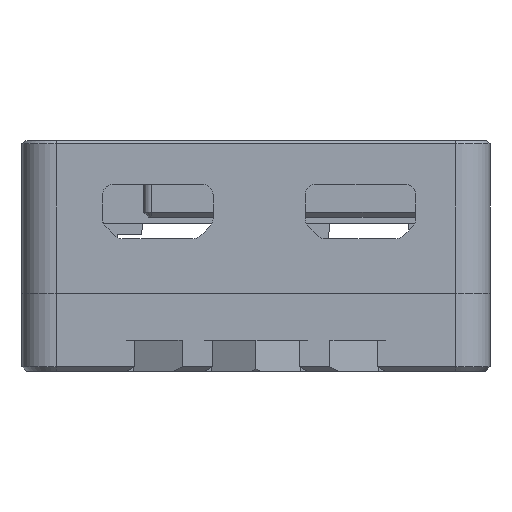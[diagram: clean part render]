
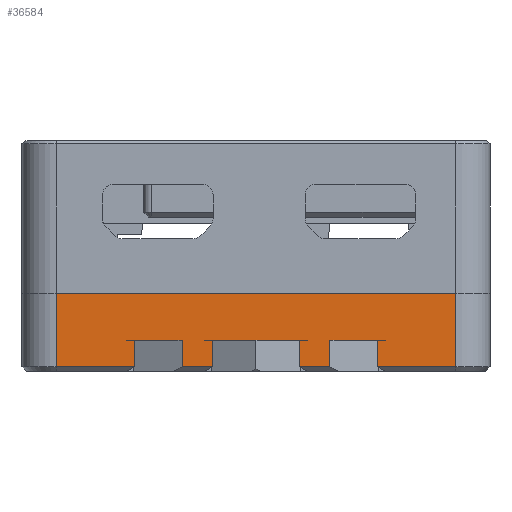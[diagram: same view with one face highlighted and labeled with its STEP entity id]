
A CAD part, left-side view. The second image highlights one B-rep face of the part: STEP entity #36584.
In plain terms, the highlighted planar face has unit normal (-1, 0, 0).
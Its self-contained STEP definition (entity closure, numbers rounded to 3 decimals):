
#761 = ORIENTED_EDGE ( 'NONE', *, *, #17235, .F. ) ;
#1042 = ORIENTED_EDGE ( 'NONE', *, *, #25775, .F. ) ;
#1601 = CARTESIAN_POINT ( 'NONE',  ( -39.25, -12.8, -1.3 ) ) ;
#2102 = VERTEX_POINT ( 'NONE', #20802 ) ;
#2286 = LINE ( 'NONE', #22566, #44031 ) ;
#2346 = CARTESIAN_POINT ( 'NONE',  ( -39.25, 7.79, -4.3 ) ) ;
#2533 = EDGE_CURVE ( 'NONE', #50978, #35514, #48154, .T. ) ;
#2747 = CARTESIAN_POINT ( 'NONE',  ( -39.25, 2.766, -6. ) ) ;
#2926 = CARTESIAN_POINT ( 'NONE',  ( -39.25, 2.766, -6. ) ) ;
#3187 = EDGE_CURVE ( 'NONE', #35514, #11585, #39814, .T. ) ;
#4060 = VECTOR ( 'NONE', #16107, 1000. ) ;
#4986 = CARTESIAN_POINT ( 'NONE',  ( -39.25, 2.766, -6. ) ) ;
#5026 = VECTOR ( 'NONE', #22011, 1000. ) ;
#5602 = LINE ( 'NONE', #51870, #46638 ) ;
#6171 = VECTOR ( 'NONE', #47871, 1000. ) ;
#6237 = ORIENTED_EDGE ( 'NONE', *, *, #12542, .T. ) ;
#6689 = ORIENTED_EDGE ( 'NONE', *, *, #41767, .T. ) ;
#7201 = ORIENTED_EDGE ( 'NONE', *, *, #2533, .F. ) ;
#7357 = DIRECTION ( 'NONE',  ( 0., 1., 0. ) ) ;
#7491 = EDGE_CURVE ( 'NONE', #42672, #33001, #27049, .T. ) ;
#9226 = EDGE_CURVE ( 'NONE', #14707, #28990, #42329, .T. ) ;
#9569 = CARTESIAN_POINT ( 'NONE',  ( -39.25, 7.79, -6. ) ) ;
#11585 = VERTEX_POINT ( 'NONE', #1601 ) ;
#12542 = EDGE_CURVE ( 'NONE', #50807, #47446, #2286, .T. ) ;
#12940 = VECTOR ( 'NONE', #30386, 1000. ) ;
#13398 = ORIENTED_EDGE ( 'NONE', *, *, #9226, .T. ) ;
#14489 = CARTESIAN_POINT ( 'NONE',  ( -39.25, 12.8, -6.3 ) ) ;
#14707 = VERTEX_POINT ( 'NONE', #22684 ) ;
#14728 = CARTESIAN_POINT ( 'NONE',  ( -39.25, -4.741, -6. ) ) ;
#15275 = CARTESIAN_POINT ( 'NONE',  ( -39.25, 4.741, -4.3 ) ) ;
#16107 = DIRECTION ( 'NONE',  ( 0., 1., 0. ) ) ;
#16181 = LINE ( 'NONE', #19018, #21226 ) ;
#16388 = VECTOR ( 'NONE', #38946, 1000. ) ;
#17235 = EDGE_CURVE ( 'NONE', #30666, #35025, #5602, .T. ) ;
#17958 = LINE ( 'NONE', #2926, #19842 ) ;
#18732 = CARTESIAN_POINT ( 'NONE',  ( -39.25, -7.79, -4.3 ) ) ;
#19018 = CARTESIAN_POINT ( 'NONE',  ( -39.25, -4.741, -6. ) ) ;
#19051 = PLANE ( 'NONE',  #45058 ) ;
#19260 = DIRECTION ( 'NONE',  ( 0., -1., 0. ) ) ;
#19825 = CARTESIAN_POINT ( 'NONE',  ( -39.25, -12.8, -6. ) ) ;
#19842 = VECTOR ( 'NONE', #7357, 1000. ) ;
#19863 = ORIENTED_EDGE ( 'NONE', *, *, #35476, .F. ) ;
#20103 = DIRECTION ( 'NONE',  ( 0., 0., 1. ) ) ;
#20678 = DIRECTION ( 'NONE',  ( 0., -1., 0. ) ) ;
#20802 = CARTESIAN_POINT ( 'NONE',  ( -39.25, -12.8, -6. ) ) ;
#21226 = VECTOR ( 'NONE', #47628, 1000. ) ;
#21402 = EDGE_LOOP ( 'NONE', ( #49522, #6689, #6237, #1042, #48923, #38487, #44957, #38903, #19863, #31386, #25245, #7201, #48490, #13398, #26522, #761 ) ) ;
#22011 = DIRECTION ( 'NONE',  ( 0., -1., 0. ) ) ;
#22100 = EDGE_CURVE ( 'NONE', #23514, #30666, #17958, .T. ) ;
#22363 = DIRECTION ( 'NONE',  ( -1., 0., 0. ) ) ;
#22537 = CARTESIAN_POINT ( 'NONE',  ( -39.25, -4.741, -6. ) ) ;
#22566 = CARTESIAN_POINT ( 'NONE',  ( -39.25, 2.766, -4.3 ) ) ;
#22684 = CARTESIAN_POINT ( 'NONE',  ( -39.25, 7.79, -6. ) ) ;
#23498 = CARTESIAN_POINT ( 'NONE',  ( -39.25, 7.79, -6. ) ) ;
#23514 = VERTEX_POINT ( 'NONE', #4986 ) ;
#23542 = CARTESIAN_POINT ( 'NONE',  ( -39.25, 2.766, -4.3 ) ) ;
#24512 = CARTESIAN_POINT ( 'NONE',  ( -39.25, 7.79, -4.3 ) ) ;
#24749 = CARTESIAN_POINT ( 'NONE',  ( -39.25, 12.8, -6. ) ) ;
#24865 = DIRECTION ( 'NONE',  ( 0., 1., 0. ) ) ;
#25129 = CARTESIAN_POINT ( 'NONE',  ( -39.25, 4.741, -6. ) ) ;
#25245 = ORIENTED_EDGE ( 'NONE', *, *, #3187, .F. ) ;
#25451 = VECTOR ( 'NONE', #24865, 1000. ) ;
#25507 = LINE ( 'NONE', #19825, #4060 ) ;
#25775 = EDGE_CURVE ( 'NONE', #47395, #47446, #42801, .T. ) ;
#26522 = ORIENTED_EDGE ( 'NONE', *, *, #39624, .T. ) ;
#26572 = LINE ( 'NONE', #2747, #39367 ) ;
#27049 = LINE ( 'NONE', #38435, #16388 ) ;
#27683 = EDGE_CURVE ( 'NONE', #14707, #50978, #46364, .T. ) ;
#28990 = VERTEX_POINT ( 'NONE', #2346 ) ;
#29132 = CARTESIAN_POINT ( 'NONE',  ( -39.25, -12.8, -6. ) ) ;
#29521 = VERTEX_POINT ( 'NONE', #34456 ) ;
#30278 = DIRECTION ( 'NONE',  ( 0., 0., 1. ) ) ;
#30386 = DIRECTION ( 'NONE',  ( 0., 1., 0. ) ) ;
#30666 = VERTEX_POINT ( 'NONE', #25129 ) ;
#31386 = ORIENTED_EDGE ( 'NONE', *, *, #33100, .T. ) ;
#31525 = DIRECTION ( 'NONE',  ( 0., 0., 1. ) ) ;
#31556 = VECTOR ( 'NONE', #43684, 1000. ) ;
#33001 = VERTEX_POINT ( 'NONE', #49472 ) ;
#33100 = EDGE_CURVE ( 'NONE', #2102, #11585, #50046, .T. ) ;
#34247 = VECTOR ( 'NONE', #37351, 1000. ) ;
#34394 = LINE ( 'NONE', #18732, #12940 ) ;
#34456 = CARTESIAN_POINT ( 'NONE',  ( -39.25, -4.741, -4.3 ) ) ;
#34962 = DIRECTION ( 'NONE',  ( 0., 0., 1. ) ) ;
#35025 = VERTEX_POINT ( 'NONE', #15275 ) ;
#35061 = CARTESIAN_POINT ( 'NONE',  ( -39.25, 12.8, -6. ) ) ;
#35324 = EDGE_CURVE ( 'NONE', #47345, #29521, #47063, .T. ) ;
#35476 = EDGE_CURVE ( 'NONE', #2102, #42672, #25507, .T. ) ;
#35514 = VERTEX_POINT ( 'NONE', #44375 ) ;
#36584 = ADVANCED_FACE ( 'NONE', ( #49378 ), #19051, .T. ) ;
#37148 = VECTOR ( 'NONE', #20678, 1000. ) ;
#37351 = DIRECTION ( 'NONE',  ( 0., 0., 1. ) ) ;
#38276 = VECTOR ( 'NONE', #42806, 1000. ) ;
#38435 = CARTESIAN_POINT ( 'NONE',  ( -39.25, -7.79, -6. ) ) ;
#38487 = ORIENTED_EDGE ( 'NONE', *, *, #35324, .T. ) ;
#38903 = ORIENTED_EDGE ( 'NONE', *, *, #7491, .F. ) ;
#38946 = DIRECTION ( 'NONE',  ( 0., 0., 1. ) ) ;
#39367 = VECTOR ( 'NONE', #30278, 1000. ) ;
#39593 = CARTESIAN_POINT ( 'NONE',  ( -39.25, -2.766, -4.3 ) ) ;
#39624 = EDGE_CURVE ( 'NONE', #28990, #35025, #50358, .T. ) ;
#39814 = LINE ( 'NONE', #46927, #5026 ) ;
#39997 = EDGE_CURVE ( 'NONE', #47345, #47395, #16181, .T. ) ;
#41767 = EDGE_CURVE ( 'NONE', #23514, #50807, #26572, .T. ) ;
#42329 = LINE ( 'NONE', #23498, #31556 ) ;
#42519 = VECTOR ( 'NONE', #31525, 1000. ) ;
#42672 = VERTEX_POINT ( 'NONE', #47865 ) ;
#42801 = LINE ( 'NONE', #43676, #6171 ) ;
#42806 = DIRECTION ( 'NONE',  ( 0., 0., 1. ) ) ;
#43676 = CARTESIAN_POINT ( 'NONE',  ( -39.25, -2.766, -6. ) ) ;
#43684 = DIRECTION ( 'NONE',  ( 0., 0., 1. ) ) ;
#44031 = VECTOR ( 'NONE', #19260, 1000. ) ;
#44375 = CARTESIAN_POINT ( 'NONE',  ( -39.25, 12.8, -1.3 ) ) ;
#44957 = ORIENTED_EDGE ( 'NONE', *, *, #48337, .F. ) ;
#45058 = AXIS2_PLACEMENT_3D ( 'NONE', #14489, #22363, #34962 ) ;
#46364 = LINE ( 'NONE', #9569, #25451 ) ;
#46638 = VECTOR ( 'NONE', #20103, 1000. ) ;
#46927 = CARTESIAN_POINT ( 'NONE',  ( -39.25, 12.8, -1.3 ) ) ;
#47063 = LINE ( 'NONE', #14728, #38276 ) ;
#47345 = VERTEX_POINT ( 'NONE', #22537 ) ;
#47395 = VERTEX_POINT ( 'NONE', #52066 ) ;
#47446 = VERTEX_POINT ( 'NONE', #39593 ) ;
#47628 = DIRECTION ( 'NONE',  ( 0., 1., 0. ) ) ;
#47865 = CARTESIAN_POINT ( 'NONE',  ( -39.25, -7.79, -6. ) ) ;
#47871 = DIRECTION ( 'NONE',  ( 0., 0., 1. ) ) ;
#48154 = LINE ( 'NONE', #35061, #42519 ) ;
#48337 = EDGE_CURVE ( 'NONE', #33001, #29521, #34394, .T. ) ;
#48490 = ORIENTED_EDGE ( 'NONE', *, *, #27683, .F. ) ;
#48923 = ORIENTED_EDGE ( 'NONE', *, *, #39997, .F. ) ;
#49378 = FACE_OUTER_BOUND ( 'NONE', #21402, .T. ) ;
#49472 = CARTESIAN_POINT ( 'NONE',  ( -39.25, -7.79, -4.3 ) ) ;
#49522 = ORIENTED_EDGE ( 'NONE', *, *, #22100, .F. ) ;
#50046 = LINE ( 'NONE', #29132, #34247 ) ;
#50358 = LINE ( 'NONE', #24512, #37148 ) ;
#50807 = VERTEX_POINT ( 'NONE', #23542 ) ;
#50978 = VERTEX_POINT ( 'NONE', #24749 ) ;
#51870 = CARTESIAN_POINT ( 'NONE',  ( -39.25, 4.741, -6. ) ) ;
#52066 = CARTESIAN_POINT ( 'NONE',  ( -39.25, -2.766, -6. ) ) ;
